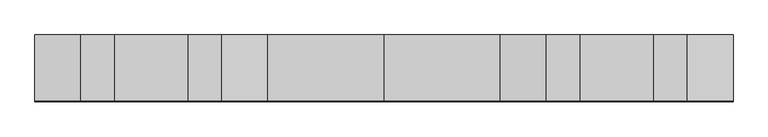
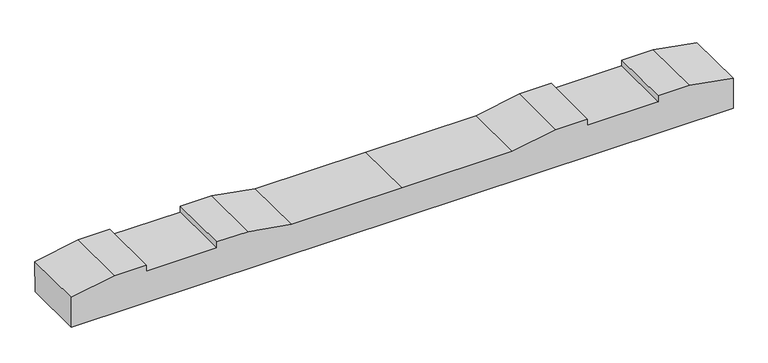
"""IFC4 building model written with IfcOpenShell, lengths in millimetres: proxy geometry, 轨枕-立面角度 : 轨枕-立面角度."""

from ifc_helpers import new_model, si_unit, frame, origin, place, context, project, spatial, polyline, outline, extrude, source, transform, mapped, element, save


def generic_models_13331742(model_context):
    return source(origin(), model_context, "Body", "SweptSolid", [
        extrude(outline(polyline([(0.0, 0.0), (0.0, -100.0206889), (-137.8834664, -124.5), (-237.8834664, -124.5), (-237.8834664, -104.5), (-461.8834664, -104.5), (-461.8834664, -124.5), (-561.8834664, -124.5), (-699.8834664, -100.0), (-1049.8834664, -100.0), (-1399.8834664, -100.0), (-1537.8834664, -124.5), (-1637.8834664, -124.5), (-1637.8834664, -104.5), (-1861.8834664, -104.5), (-1861.8834664, -124.5), (-1961.8834664, -124.5), (-2099.7669328, -100.0206889), (-2099.7669328, 0.0), (0.0, 0.0)])), frame((-1049.8834664, 99.5166888, -104.960367), z_axis=(0.0, -0.9999893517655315, 0.004614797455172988), x_axis=(-1.0, 0.0, 0.0)), (0.0, 0.0, 1.0), 200.0),
    ])


if __name__ == "__main__":
    model = new_model("IFC4")
    model_context = context("Model", 3, world=origin())
    ifc_project = project(units=[si_unit("LENGTHUNIT", "METRE", prefix="MILLI")], contexts=[model_context])
    site = spatial("IfcSite", under=ifc_project)
    building = spatial("IfcBuilding", under=site)
    placement = place(None, origin())
    generic_models_shape = generic_models_13331742(model_context)
    element("IfcBuildingElementProxy", 1, Name="轨枕-立面角度 : 轨枕-立面角度", ObjectType="轨枕-立面角度 : 轨枕-立面角度", at=placement, inside=building, context=model_context, shape_type="MappedRepresentation", body=[
        mapped(generic_models_shape, transform((0.0, 0.0, 0.0), x_axis=(1.0, 0.0, 0.0), y_axis=(0.0, 1.0, 0.0), z_axis=(0.0, 0.0, 1.0))),
    ])
    save(model, "model.ifc")
